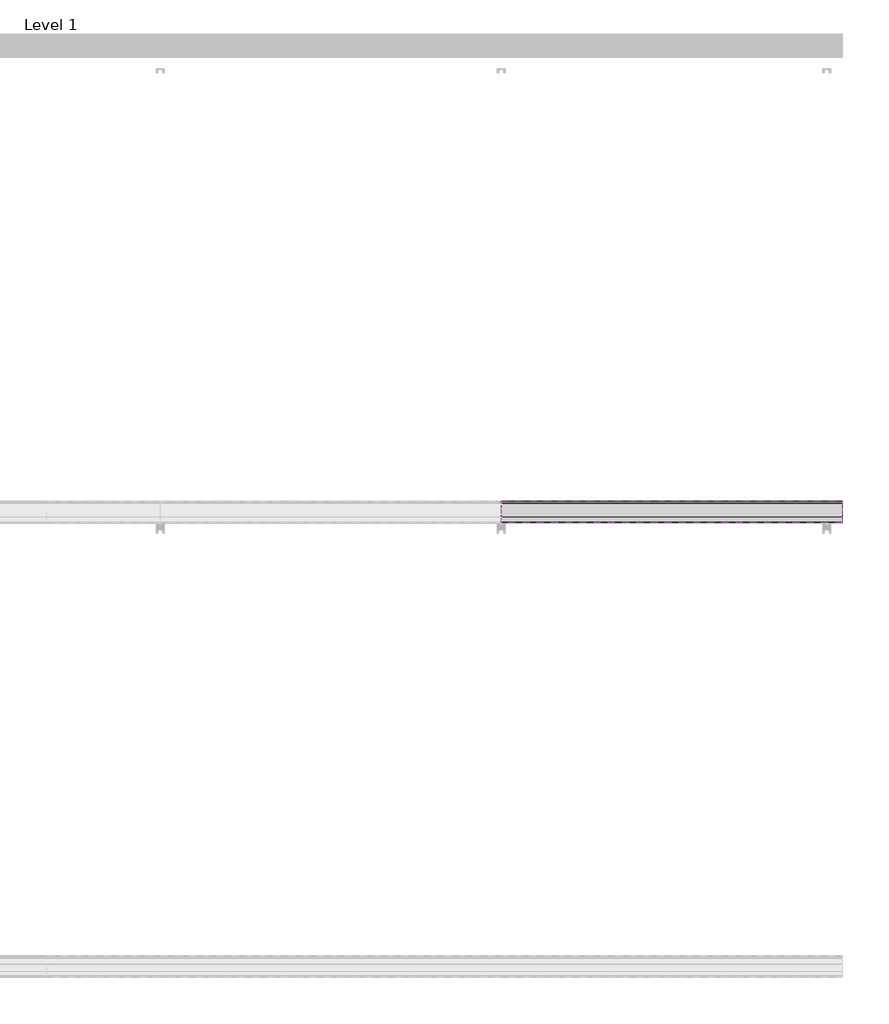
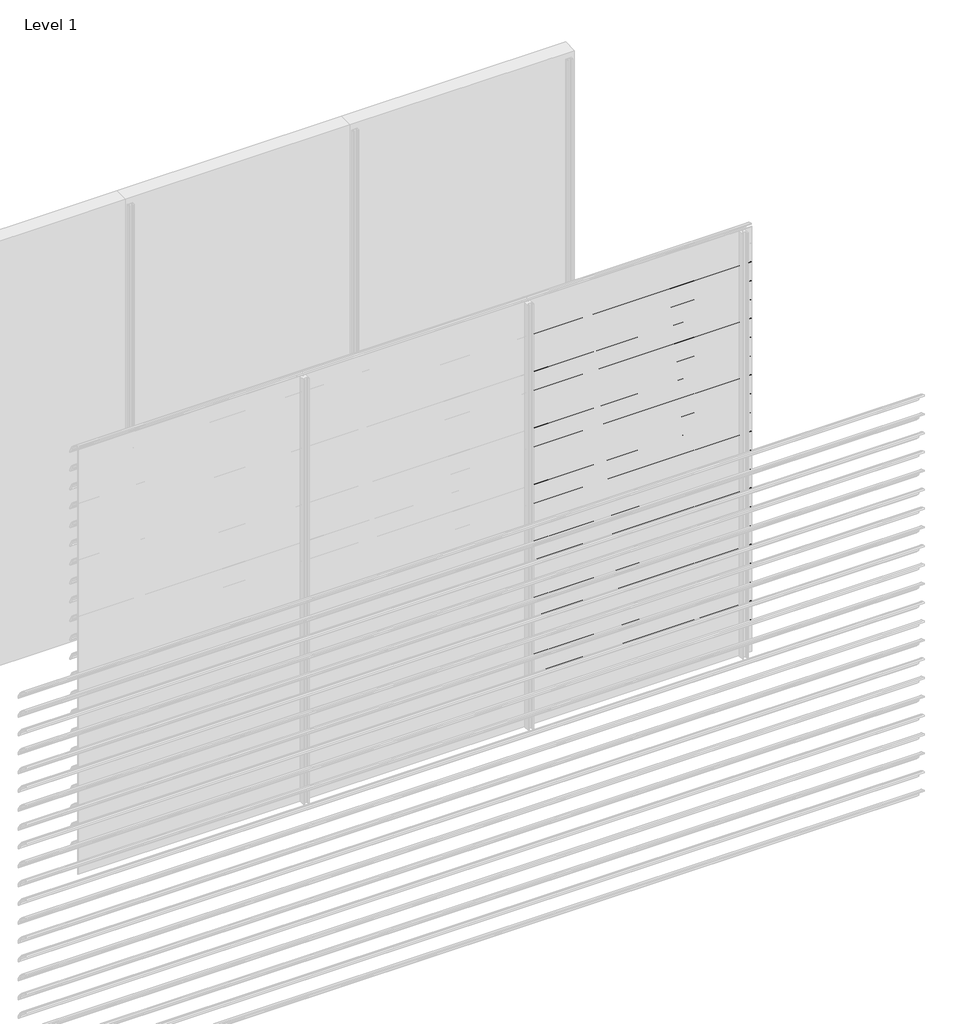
# One storey, part 46 of 57: 20 proxies.
"""IFC4 building model written with IfcOpenShell, lengths in millimetres."""

from ifc_helpers import new_model, si_unit, point, frame, frame_2d, origin, place, context, project, spatial, polyline, circle_curve, trimmed, segment, composite_curve, outline, extrude, element, save

model = new_model("IFC4")

# Units and contexts
model_context = context("Model", 3, world=origin())
ifc_project = project(units=[si_unit("LENGTHUNIT", "METRE", prefix="MILLI")], contexts=[model_context])

# Site, building, storey
site = spatial("IfcSite", under=ifc_project)
building = spatial("IfcBuilding", under=site)
storey = spatial("IfcBuildingStorey", under=building, Name="Level 1", Elevation=0.0)

# Proxies
placement = place(None, origin())
element("IfcBuildingElementProxy", 1, Name="Wall Sweeps", at=placement, inside=storey, context=model_context, shape_type="SweptSolid", body=[
    extrude(outline(composite_curve([segment(trimmed(circle_curve(frame_2d((-11993.7822526, 2750.4913792)), 4.2177474), [point((-11989.6985606, 2751.5462976))], [point((-11993.7822526, 2754.7091266))], False, "CARTESIAN"), True, "CONTINUOUS"), segment(trimmed(circle_curve(frame_2d((-12018.7150834, 2652.2536312)), 105.4456002), [point((-11993.7822526, 2754.7091266))], [point((-11971.7914298, 2746.6832099))], False, "CARTESIAN"), True, "CONTINUOUS"), segment(trimmed(circle_curve(frame_2d((-12061.7199745, 2598.0352476)), 173.7335887), [point((-11971.7914298, 2746.6832099))], [point((-11913.0720121, 2687.9637922))], False, "CARTESIAN"), True, "CONTINUOUS"), segment(trimmed(circle_curve(frame_2d((-12004.9297178, 2636.1860314)), 105.4456002), [point((-11913.0720121, 2687.9637922))], [point((-11903.6249616, 2665.4455765))], False, "CARTESIAN"), True, "CONTINUOUS"), segment(trimmed(circle_curve(frame_2d((-11907.809737, 2664.3307305)), 4.3307305), [point((-11903.6249616, 2665.4455765))], [point((-11909.0769196, 2660.189538))], False, "CARTESIAN"), True, "CONTINUOUS"), segment(polyline([(-11909.0769196, 2660.189538), (-11934.7401984, 2684.9722783)]), True, "CONTINUOUS"), segment(trimmed(circle_curve(frame_2d((-11931.3879574, 2687.2977626)), 4.079877), [point((-11934.7401984, 2684.9722783))], [point((-11930.7310597, 2691.3244091))], False, "CARTESIAN"), True, "CONTINUOUS"), segment(trimmed(circle_curve(frame_2d((-12014.6665585, 2669.2544323)), 86.7885467), [point((-11930.7310597, 2691.3244091))], [point((-11942.3028351, 2717.1683485))], True, "CARTESIAN"), True, "CONTINUOUS"), segment(polyline([(-11942.3028351, 2717.1683485), (-11940.7230099, 2719.9046861)]), True, "CONTINUOUS"), segment(trimmed(circle_curve(frame_2d((-12061.7199745, 2598.0352476)), 171.7335887), [point((-11940.7230099, 2719.9046861))], [point((-11972.7555872, 2744.9289618))], True, "CARTESIAN"), True, "CONTINUOUS"), segment(trimmed(circle_curve(frame_2d((-12018.7150834, 2652.2536312)), 103.4456002), [point((-11972.7555872, 2744.9289618))], [point((-11989.6985606, 2751.5462976))], True, "CARTESIAN"), True, "CONTINUOUS")], self_intersect=False)), frame((4500.0, 0.0, 0.0), z_axis=(1.0, 0.0, 0.0), x_axis=(0.0, 1.0, 0.0)), (0.0, 0.0, 1.0), 1500.0),
])
element("IfcBuildingElementProxy", 2, Name="Wall Sweeps", at=placement, inside=storey, context=model_context, shape_type="SweptSolid", body=[
    extrude(outline(composite_curve([segment(trimmed(circle_curve(frame_2d((-11993.7822526, 2617.4913792)), 4.2177474), [point((-11989.6985606, 2618.5462976))], [point((-11993.7822526, 2621.7091266))], False, "CARTESIAN"), True, "CONTINUOUS"), segment(trimmed(circle_curve(frame_2d((-12018.7150834, 2519.2536312)), 105.4456002), [point((-11993.7822526, 2621.7091266))], [point((-11971.7914298, 2613.6832099))], False, "CARTESIAN"), True, "CONTINUOUS"), segment(trimmed(circle_curve(frame_2d((-12061.7199745, 2465.0352476)), 173.7335887), [point((-11971.7914298, 2613.6832099))], [point((-11913.0720121, 2554.9637922))], False, "CARTESIAN"), True, "CONTINUOUS"), segment(trimmed(circle_curve(frame_2d((-12004.9297178, 2503.1860314)), 105.4456002), [point((-11913.0720121, 2554.9637922))], [point((-11903.6249616, 2532.4455765))], False, "CARTESIAN"), True, "CONTINUOUS"), segment(trimmed(circle_curve(frame_2d((-11907.809737, 2531.3307305)), 4.3307305), [point((-11903.6249616, 2532.4455765))], [point((-11909.0769196, 2527.189538))], False, "CARTESIAN"), True, "CONTINUOUS"), segment(polyline([(-11909.0769196, 2527.189538), (-11934.7401984, 2551.9722783)]), True, "CONTINUOUS"), segment(trimmed(circle_curve(frame_2d((-11931.3879574, 2554.2977626)), 4.079877), [point((-11934.7401984, 2551.9722783))], [point((-11930.7310597, 2558.3244091))], False, "CARTESIAN"), True, "CONTINUOUS"), segment(trimmed(circle_curve(frame_2d((-12014.6665585, 2536.2544323)), 86.7885467), [point((-11930.7310597, 2558.3244091))], [point((-11942.3028351, 2584.1683485))], True, "CARTESIAN"), True, "CONTINUOUS"), segment(polyline([(-11942.3028351, 2584.1683485), (-11940.7230099, 2586.9046861)]), True, "CONTINUOUS"), segment(trimmed(circle_curve(frame_2d((-12061.7199745, 2465.0352476)), 171.7335887), [point((-11940.7230099, 2586.9046861))], [point((-11972.7555872, 2611.9289618))], True, "CARTESIAN"), True, "CONTINUOUS"), segment(trimmed(circle_curve(frame_2d((-12018.7150834, 2519.2536312)), 103.4456002), [point((-11972.7555872, 2611.9289618))], [point((-11989.6985606, 2618.5462976))], True, "CARTESIAN"), True, "CONTINUOUS")], self_intersect=False)), frame((4500.0, 0.0, 0.0), z_axis=(1.0, 0.0, 0.0), x_axis=(0.0, 1.0, 0.0)), (0.0, 0.0, 1.0), 1500.0),
])
element("IfcBuildingElementProxy", 3, Name="Wall Sweeps", at=placement, inside=storey, context=model_context, shape_type="SweptSolid", body=[
    extrude(outline(composite_curve([segment(trimmed(circle_curve(frame_2d((-11993.7822526, 2484.4913792)), 4.2177474), [point((-11989.6985606, 2485.5462976))], [point((-11993.7822526, 2488.7091266))], False, "CARTESIAN"), True, "CONTINUOUS"), segment(trimmed(circle_curve(frame_2d((-12018.7150834, 2386.2536312)), 105.4456002), [point((-11993.7822526, 2488.7091266))], [point((-11971.7914298, 2480.6832099))], False, "CARTESIAN"), True, "CONTINUOUS"), segment(trimmed(circle_curve(frame_2d((-12061.7199745, 2332.0352476)), 173.7335887), [point((-11971.7914298, 2480.6832099))], [point((-11913.0720121, 2421.9637922))], False, "CARTESIAN"), True, "CONTINUOUS"), segment(trimmed(circle_curve(frame_2d((-12004.9297178, 2370.1860314)), 105.4456002), [point((-11913.0720121, 2421.9637922))], [point((-11903.6249616, 2399.4455765))], False, "CARTESIAN"), True, "CONTINUOUS"), segment(trimmed(circle_curve(frame_2d((-11907.809737, 2398.3307305)), 4.3307305), [point((-11903.6249616, 2399.4455765))], [point((-11909.0769196, 2394.189538))], False, "CARTESIAN"), True, "CONTINUOUS"), segment(polyline([(-11909.0769196, 2394.189538), (-11934.7401984, 2418.9722783)]), True, "CONTINUOUS"), segment(trimmed(circle_curve(frame_2d((-11931.3879574, 2421.2977626)), 4.079877), [point((-11934.7401984, 2418.9722783))], [point((-11930.7310597, 2425.3244091))], False, "CARTESIAN"), True, "CONTINUOUS"), segment(trimmed(circle_curve(frame_2d((-12014.6665585, 2403.2544323)), 86.7885467), [point((-11930.7310597, 2425.3244091))], [point((-11942.3028351, 2451.1683485))], True, "CARTESIAN"), True, "CONTINUOUS"), segment(polyline([(-11942.3028351, 2451.1683485), (-11940.7230099, 2453.9046861)]), True, "CONTINUOUS"), segment(trimmed(circle_curve(frame_2d((-12061.7199745, 2332.0352476)), 171.7335887), [point((-11940.7230099, 2453.9046861))], [point((-11972.7555872, 2478.9289618))], True, "CARTESIAN"), True, "CONTINUOUS"), segment(trimmed(circle_curve(frame_2d((-12018.7150834, 2386.2536312)), 103.4456002), [point((-11972.7555872, 2478.9289618))], [point((-11989.6985606, 2485.5462976))], True, "CARTESIAN"), True, "CONTINUOUS")], self_intersect=False)), frame((4500.0, 0.0, 0.0), z_axis=(1.0, 0.0, 0.0), x_axis=(0.0, 1.0, 0.0)), (0.0, 0.0, 1.0), 1500.0),
])
element("IfcBuildingElementProxy", 4, Name="Wall Sweeps", at=placement, inside=storey, context=model_context, shape_type="SweptSolid", body=[
    extrude(outline(composite_curve([segment(trimmed(circle_curve(frame_2d((-11993.7822526, 2351.4913792)), 4.2177474), [point((-11989.6985606, 2352.5462976))], [point((-11993.7822526, 2355.7091266))], False, "CARTESIAN"), True, "CONTINUOUS"), segment(trimmed(circle_curve(frame_2d((-12018.7150834, 2253.2536312)), 105.4456002), [point((-11993.7822526, 2355.7091266))], [point((-11971.7914298, 2347.6832099))], False, "CARTESIAN"), True, "CONTINUOUS"), segment(trimmed(circle_curve(frame_2d((-12061.7199745, 2199.0352476)), 173.7335887), [point((-11971.7914298, 2347.6832099))], [point((-11913.0720121, 2288.9637922))], False, "CARTESIAN"), True, "CONTINUOUS"), segment(trimmed(circle_curve(frame_2d((-12004.9297178, 2237.1860314)), 105.4456002), [point((-11913.0720121, 2288.9637922))], [point((-11903.6249616, 2266.4455765))], False, "CARTESIAN"), True, "CONTINUOUS"), segment(trimmed(circle_curve(frame_2d((-11907.809737, 2265.3307305)), 4.3307305), [point((-11903.6249616, 2266.4455765))], [point((-11909.0769196, 2261.189538))], False, "CARTESIAN"), True, "CONTINUOUS"), segment(polyline([(-11909.0769196, 2261.189538), (-11934.7401984, 2285.9722783)]), True, "CONTINUOUS"), segment(trimmed(circle_curve(frame_2d((-11931.3879574, 2288.2977626)), 4.079877), [point((-11934.7401984, 2285.9722783))], [point((-11930.7310597, 2292.3244091))], False, "CARTESIAN"), True, "CONTINUOUS"), segment(trimmed(circle_curve(frame_2d((-12014.6665585, 2270.2544323)), 86.7885467), [point((-11930.7310597, 2292.3244091))], [point((-11942.3028351, 2318.1683485))], True, "CARTESIAN"), True, "CONTINUOUS"), segment(polyline([(-11942.3028351, 2318.1683485), (-11940.7230099, 2320.9046861)]), True, "CONTINUOUS"), segment(trimmed(circle_curve(frame_2d((-12061.7199745, 2199.0352476)), 171.7335887), [point((-11940.7230099, 2320.9046861))], [point((-11972.7555872, 2345.9289618))], True, "CARTESIAN"), True, "CONTINUOUS"), segment(trimmed(circle_curve(frame_2d((-12018.7150834, 2253.2536312)), 103.4456002), [point((-11972.7555872, 2345.9289618))], [point((-11989.6985606, 2352.5462976))], True, "CARTESIAN"), True, "CONTINUOUS")], self_intersect=False)), frame((4500.0, 0.0, 0.0), z_axis=(1.0, 0.0, 0.0), x_axis=(0.0, 1.0, 0.0)), (0.0, 0.0, 1.0), 1500.0),
])
element("IfcBuildingElementProxy", 5, Name="Wall Sweeps", at=placement, inside=storey, context=model_context, shape_type="SweptSolid", body=[
    extrude(outline(composite_curve([segment(trimmed(circle_curve(frame_2d((-11993.7822526, 2218.4913792)), 4.2177474), [point((-11989.6985606, 2219.5462976))], [point((-11993.7822526, 2222.7091266))], False, "CARTESIAN"), True, "CONTINUOUS"), segment(trimmed(circle_curve(frame_2d((-12018.7150834, 2120.2536312)), 105.4456002), [point((-11993.7822526, 2222.7091266))], [point((-11971.7914298, 2214.6832099))], False, "CARTESIAN"), True, "CONTINUOUS"), segment(trimmed(circle_curve(frame_2d((-12061.7199745, 2066.0352476)), 173.7335887), [point((-11971.7914298, 2214.6832099))], [point((-11913.0720121, 2155.9637922))], False, "CARTESIAN"), True, "CONTINUOUS"), segment(trimmed(circle_curve(frame_2d((-12004.9297178, 2104.1860314)), 105.4456002), [point((-11913.0720121, 2155.9637922))], [point((-11903.6249616, 2133.4455765))], False, "CARTESIAN"), True, "CONTINUOUS"), segment(trimmed(circle_curve(frame_2d((-11907.809737, 2132.3307305)), 4.3307305), [point((-11903.6249616, 2133.4455765))], [point((-11909.0769196, 2128.189538))], False, "CARTESIAN"), True, "CONTINUOUS"), segment(polyline([(-11909.0769196, 2128.189538), (-11934.7401984, 2152.9722783)]), True, "CONTINUOUS"), segment(trimmed(circle_curve(frame_2d((-11931.3879574, 2155.2977626)), 4.079877), [point((-11934.7401984, 2152.9722783))], [point((-11930.7310597, 2159.3244091))], False, "CARTESIAN"), True, "CONTINUOUS"), segment(trimmed(circle_curve(frame_2d((-12014.6665585, 2137.2544323)), 86.7885467), [point((-11930.7310597, 2159.3244091))], [point((-11942.3028351, 2185.1683485))], True, "CARTESIAN"), True, "CONTINUOUS"), segment(polyline([(-11942.3028351, 2185.1683485), (-11940.7230099, 2187.9046861)]), True, "CONTINUOUS"), segment(trimmed(circle_curve(frame_2d((-12061.7199745, 2066.0352476)), 171.7335887), [point((-11940.7230099, 2187.9046861))], [point((-11972.7555872, 2212.9289618))], True, "CARTESIAN"), True, "CONTINUOUS"), segment(trimmed(circle_curve(frame_2d((-12018.7150834, 2120.2536312)), 103.4456002), [point((-11972.7555872, 2212.9289618))], [point((-11989.6985606, 2219.5462976))], True, "CARTESIAN"), True, "CONTINUOUS")], self_intersect=False)), frame((4500.0, 0.0, 0.0), z_axis=(1.0, 0.0, 0.0), x_axis=(0.0, 1.0, 0.0)), (0.0, 0.0, 1.0), 1500.0),
])
element("IfcBuildingElementProxy", 6, Name="Wall Sweeps", at=placement, inside=storey, context=model_context, shape_type="SweptSolid", body=[
    extrude(outline(composite_curve([segment(trimmed(circle_curve(frame_2d((-11993.7822526, 2085.4913792)), 4.2177474), [point((-11989.6985606, 2086.5462976))], [point((-11993.7822526, 2089.7091266))], False, "CARTESIAN"), True, "CONTINUOUS"), segment(trimmed(circle_curve(frame_2d((-12018.7150834, 1987.2536312)), 105.4456002), [point((-11993.7822526, 2089.7091266))], [point((-11971.7914298, 2081.6832099))], False, "CARTESIAN"), True, "CONTINUOUS"), segment(trimmed(circle_curve(frame_2d((-12061.7199745, 1933.0352476)), 173.7335887), [point((-11971.7914298, 2081.6832099))], [point((-11913.0720121, 2022.9637922))], False, "CARTESIAN"), True, "CONTINUOUS"), segment(trimmed(circle_curve(frame_2d((-12004.9297178, 1971.1860314)), 105.4456002), [point((-11913.0720121, 2022.9637922))], [point((-11903.6249616, 2000.4455765))], False, "CARTESIAN"), True, "CONTINUOUS"), segment(trimmed(circle_curve(frame_2d((-11907.809737, 1999.3307305)), 4.3307305), [point((-11903.6249616, 2000.4455765))], [point((-11909.0769196, 1995.189538))], False, "CARTESIAN"), True, "CONTINUOUS"), segment(polyline([(-11909.0769196, 1995.189538), (-11934.7401984, 2019.9722783)]), True, "CONTINUOUS"), segment(trimmed(circle_curve(frame_2d((-11931.3879574, 2022.2977626)), 4.079877), [point((-11934.7401984, 2019.9722783))], [point((-11930.7310597, 2026.3244091))], False, "CARTESIAN"), True, "CONTINUOUS"), segment(trimmed(circle_curve(frame_2d((-12014.6665585, 2004.2544323)), 86.7885467), [point((-11930.7310597, 2026.3244091))], [point((-11942.3028351, 2052.1683485))], True, "CARTESIAN"), True, "CONTINUOUS"), segment(polyline([(-11942.3028351, 2052.1683485), (-11940.7230099, 2054.9046861)]), True, "CONTINUOUS"), segment(trimmed(circle_curve(frame_2d((-12061.7199745, 1933.0352476)), 171.7335887), [point((-11940.7230099, 2054.9046861))], [point((-11972.7555872, 2079.9289618))], True, "CARTESIAN"), True, "CONTINUOUS"), segment(trimmed(circle_curve(frame_2d((-12018.7150834, 1987.2536312)), 103.4456002), [point((-11972.7555872, 2079.9289618))], [point((-11989.6985606, 2086.5462976))], True, "CARTESIAN"), True, "CONTINUOUS")], self_intersect=False)), frame((4500.0, 0.0, 0.0), z_axis=(1.0, 0.0, 0.0), x_axis=(0.0, 1.0, 0.0)), (0.0, 0.0, 1.0), 1500.0),
])
element("IfcBuildingElementProxy", 7, Name="Wall Sweeps", at=placement, inside=storey, context=model_context, shape_type="SweptSolid", body=[
    extrude(outline(composite_curve([segment(trimmed(circle_curve(frame_2d((-11993.7822526, 1952.4913792)), 4.2177474), [point((-11989.6985606, 1953.5462976))], [point((-11993.7822526, 1956.7091266))], False, "CARTESIAN"), True, "CONTINUOUS"), segment(trimmed(circle_curve(frame_2d((-12018.7150834, 1854.2536312)), 105.4456002), [point((-11993.7822526, 1956.7091266))], [point((-11971.7914298, 1948.6832099))], False, "CARTESIAN"), True, "CONTINUOUS"), segment(trimmed(circle_curve(frame_2d((-12061.7199745, 1800.0352476)), 173.7335887), [point((-11971.7914298, 1948.6832099))], [point((-11913.0720121, 1889.9637922))], False, "CARTESIAN"), True, "CONTINUOUS"), segment(trimmed(circle_curve(frame_2d((-12004.9297178, 1838.1860314)), 105.4456002), [point((-11913.0720121, 1889.9637922))], [point((-11903.6249616, 1867.4455765))], False, "CARTESIAN"), True, "CONTINUOUS"), segment(trimmed(circle_curve(frame_2d((-11907.809737, 1866.3307305)), 4.3307305), [point((-11903.6249616, 1867.4455765))], [point((-11909.0769196, 1862.189538))], False, "CARTESIAN"), True, "CONTINUOUS"), segment(polyline([(-11909.0769196, 1862.189538), (-11934.7401984, 1886.9722783)]), True, "CONTINUOUS"), segment(trimmed(circle_curve(frame_2d((-11931.3879574, 1889.2977626)), 4.079877), [point((-11934.7401984, 1886.9722783))], [point((-11930.7310597, 1893.3244091))], False, "CARTESIAN"), True, "CONTINUOUS"), segment(trimmed(circle_curve(frame_2d((-12014.6665585, 1871.2544323)), 86.7885467), [point((-11930.7310597, 1893.3244091))], [point((-11942.3028351, 1919.1683485))], True, "CARTESIAN"), True, "CONTINUOUS"), segment(polyline([(-11942.3028351, 1919.1683485), (-11940.7230099, 1921.9046861)]), True, "CONTINUOUS"), segment(trimmed(circle_curve(frame_2d((-12061.7199745, 1800.0352476)), 171.7335887), [point((-11940.7230099, 1921.9046861))], [point((-11972.7555872, 1946.9289618))], True, "CARTESIAN"), True, "CONTINUOUS"), segment(trimmed(circle_curve(frame_2d((-12018.7150834, 1854.2536312)), 103.4456002), [point((-11972.7555872, 1946.9289618))], [point((-11989.6985606, 1953.5462976))], True, "CARTESIAN"), True, "CONTINUOUS")], self_intersect=False)), frame((4500.0, 0.0, 0.0), z_axis=(1.0, 0.0, 0.0), x_axis=(0.0, 1.0, 0.0)), (0.0, 0.0, 1.0), 1500.0),
])
element("IfcBuildingElementProxy", 8, Name="Wall Sweeps", at=placement, inside=storey, context=model_context, shape_type="SweptSolid", body=[
    extrude(outline(composite_curve([segment(trimmed(circle_curve(frame_2d((-11993.7822526, 1819.4913792)), 4.2177474), [point((-11989.6985606, 1820.5462976))], [point((-11993.7822526, 1823.7091266))], False, "CARTESIAN"), True, "CONTINUOUS"), segment(trimmed(circle_curve(frame_2d((-12018.7150834, 1721.2536312)), 105.4456002), [point((-11993.7822526, 1823.7091266))], [point((-11971.7914298, 1815.6832099))], False, "CARTESIAN"), True, "CONTINUOUS"), segment(trimmed(circle_curve(frame_2d((-12061.7199745, 1667.0352476)), 173.7335887), [point((-11971.7914298, 1815.6832099))], [point((-11913.0720121, 1756.9637922))], False, "CARTESIAN"), True, "CONTINUOUS"), segment(trimmed(circle_curve(frame_2d((-12004.9297178, 1705.1860314)), 105.4456002), [point((-11913.0720121, 1756.9637922))], [point((-11903.6249616, 1734.4455765))], False, "CARTESIAN"), True, "CONTINUOUS"), segment(trimmed(circle_curve(frame_2d((-11907.809737, 1733.3307305)), 4.3307305), [point((-11903.6249616, 1734.4455765))], [point((-11909.0769196, 1729.189538))], False, "CARTESIAN"), True, "CONTINUOUS"), segment(polyline([(-11909.0769196, 1729.189538), (-11934.7401984, 1753.9722783)]), True, "CONTINUOUS"), segment(trimmed(circle_curve(frame_2d((-11931.3879574, 1756.2977626)), 4.079877), [point((-11934.7401984, 1753.9722783))], [point((-11930.7310597, 1760.3244091))], False, "CARTESIAN"), True, "CONTINUOUS"), segment(trimmed(circle_curve(frame_2d((-12014.6665585, 1738.2544323)), 86.7885467), [point((-11930.7310597, 1760.3244091))], [point((-11942.3028351, 1786.1683485))], True, "CARTESIAN"), True, "CONTINUOUS"), segment(polyline([(-11942.3028351, 1786.1683485), (-11940.7230099, 1788.9046861)]), True, "CONTINUOUS"), segment(trimmed(circle_curve(frame_2d((-12061.7199745, 1667.0352476)), 171.7335887), [point((-11940.7230099, 1788.9046861))], [point((-11972.7555872, 1813.9289618))], True, "CARTESIAN"), True, "CONTINUOUS"), segment(trimmed(circle_curve(frame_2d((-12018.7150834, 1721.2536312)), 103.4456002), [point((-11972.7555872, 1813.9289618))], [point((-11989.6985606, 1820.5462976))], True, "CARTESIAN"), True, "CONTINUOUS")], self_intersect=False)), frame((4500.0, 0.0, 0.0), z_axis=(1.0, 0.0, 0.0), x_axis=(0.0, 1.0, 0.0)), (0.0, 0.0, 1.0), 1500.0),
])
element("IfcBuildingElementProxy", 9, Name="Wall Sweeps", at=placement, inside=storey, context=model_context, shape_type="SweptSolid", body=[
    extrude(outline(composite_curve([segment(trimmed(circle_curve(frame_2d((-11993.7822526, 1686.4913792)), 4.2177474), [point((-11989.6985606, 1687.5462976))], [point((-11993.7822526, 1690.7091266))], False, "CARTESIAN"), True, "CONTINUOUS"), segment(trimmed(circle_curve(frame_2d((-12018.7150834, 1588.2536312)), 105.4456002), [point((-11993.7822526, 1690.7091266))], [point((-11971.7914298, 1682.6832099))], False, "CARTESIAN"), True, "CONTINUOUS"), segment(trimmed(circle_curve(frame_2d((-12061.7199745, 1534.0352476)), 173.7335887), [point((-11971.7914298, 1682.6832099))], [point((-11913.0720121, 1623.9637922))], False, "CARTESIAN"), True, "CONTINUOUS"), segment(trimmed(circle_curve(frame_2d((-12004.9297178, 1572.1860314)), 105.4456002), [point((-11913.0720121, 1623.9637922))], [point((-11903.6249616, 1601.4455765))], False, "CARTESIAN"), True, "CONTINUOUS"), segment(trimmed(circle_curve(frame_2d((-11907.809737, 1600.3307305)), 4.3307305), [point((-11903.6249616, 1601.4455765))], [point((-11909.0769196, 1596.189538))], False, "CARTESIAN"), True, "CONTINUOUS"), segment(polyline([(-11909.0769196, 1596.189538), (-11934.7401984, 1620.9722783)]), True, "CONTINUOUS"), segment(trimmed(circle_curve(frame_2d((-11931.3879574, 1623.2977626)), 4.079877), [point((-11934.7401984, 1620.9722783))], [point((-11930.7310597, 1627.3244091))], False, "CARTESIAN"), True, "CONTINUOUS"), segment(trimmed(circle_curve(frame_2d((-12014.6665585, 1605.2544323)), 86.7885467), [point((-11930.7310597, 1627.3244091))], [point((-11942.3028351, 1653.1683485))], True, "CARTESIAN"), True, "CONTINUOUS"), segment(polyline([(-11942.3028351, 1653.1683485), (-11940.7230099, 1655.9046861)]), True, "CONTINUOUS"), segment(trimmed(circle_curve(frame_2d((-12061.7199745, 1534.0352476)), 171.7335887), [point((-11940.7230099, 1655.9046861))], [point((-11972.7555872, 1680.9289618))], True, "CARTESIAN"), True, "CONTINUOUS"), segment(trimmed(circle_curve(frame_2d((-12018.7150834, 1588.2536312)), 103.4456002), [point((-11972.7555872, 1680.9289618))], [point((-11989.6985606, 1687.5462976))], True, "CARTESIAN"), True, "CONTINUOUS")], self_intersect=False)), frame((4500.0, 0.0, 0.0), z_axis=(1.0, 0.0, 0.0), x_axis=(0.0, 1.0, 0.0)), (0.0, 0.0, 1.0), 1500.0),
])
element("IfcBuildingElementProxy", 10, Name="Wall Sweeps", at=placement, inside=storey, context=model_context, shape_type="SweptSolid", body=[
    extrude(outline(composite_curve([segment(trimmed(circle_curve(frame_2d((-11993.7822526, 1553.4913792)), 4.2177474), [point((-11989.6985606, 1554.5462976))], [point((-11993.7822526, 1557.7091266))], False, "CARTESIAN"), True, "CONTINUOUS"), segment(trimmed(circle_curve(frame_2d((-12018.7150834, 1455.2536312)), 105.4456002), [point((-11993.7822526, 1557.7091266))], [point((-11971.7914298, 1549.6832099))], False, "CARTESIAN"), True, "CONTINUOUS"), segment(trimmed(circle_curve(frame_2d((-12061.7199745, 1401.0352476)), 173.7335887), [point((-11971.7914298, 1549.6832099))], [point((-11913.0720121, 1490.9637922))], False, "CARTESIAN"), True, "CONTINUOUS"), segment(trimmed(circle_curve(frame_2d((-12004.9297178, 1439.1860314)), 105.4456002), [point((-11913.0720121, 1490.9637922))], [point((-11903.6249616, 1468.4455765))], False, "CARTESIAN"), True, "CONTINUOUS"), segment(trimmed(circle_curve(frame_2d((-11907.809737, 1467.3307305)), 4.3307305), [point((-11903.6249616, 1468.4455765))], [point((-11909.0769196, 1463.189538))], False, "CARTESIAN"), True, "CONTINUOUS"), segment(polyline([(-11909.0769196, 1463.189538), (-11934.7401984, 1487.9722783)]), True, "CONTINUOUS"), segment(trimmed(circle_curve(frame_2d((-11931.3879574, 1490.2977626)), 4.079877), [point((-11934.7401984, 1487.9722783))], [point((-11930.7310597, 1494.3244091))], False, "CARTESIAN"), True, "CONTINUOUS"), segment(trimmed(circle_curve(frame_2d((-12014.6665585, 1472.2544323)), 86.7885467), [point((-11930.7310597, 1494.3244091))], [point((-11942.3028351, 1520.1683485))], True, "CARTESIAN"), True, "CONTINUOUS"), segment(polyline([(-11942.3028351, 1520.1683485), (-11940.7230099, 1522.9046861)]), True, "CONTINUOUS"), segment(trimmed(circle_curve(frame_2d((-12061.7199745, 1401.0352476)), 171.7335887), [point((-11940.7230099, 1522.9046861))], [point((-11972.7555872, 1547.9289618))], True, "CARTESIAN"), True, "CONTINUOUS"), segment(trimmed(circle_curve(frame_2d((-12018.7150834, 1455.2536312)), 103.4456002), [point((-11972.7555872, 1547.9289618))], [point((-11989.6985606, 1554.5462976))], True, "CARTESIAN"), True, "CONTINUOUS")], self_intersect=False)), frame((4500.0, 0.0, 0.0), z_axis=(1.0, 0.0, 0.0), x_axis=(0.0, 1.0, 0.0)), (0.0, 0.0, 1.0), 1500.0),
])
element("IfcBuildingElementProxy", 11, Name="Wall Sweeps", at=placement, inside=storey, context=model_context, shape_type="SweptSolid", body=[
    extrude(outline(composite_curve([segment(trimmed(circle_curve(frame_2d((-11993.7822526, 1420.4913792)), 4.2177474), [point((-11989.6985606, 1421.5462976))], [point((-11993.7822526, 1424.7091266))], False, "CARTESIAN"), True, "CONTINUOUS"), segment(trimmed(circle_curve(frame_2d((-12018.7150834, 1322.2536312)), 105.4456002), [point((-11993.7822526, 1424.7091266))], [point((-11971.7914298, 1416.6832099))], False, "CARTESIAN"), True, "CONTINUOUS"), segment(trimmed(circle_curve(frame_2d((-12061.7199745, 1268.0352476)), 173.7335887), [point((-11971.7914298, 1416.6832099))], [point((-11913.0720121, 1357.9637922))], False, "CARTESIAN"), True, "CONTINUOUS"), segment(trimmed(circle_curve(frame_2d((-12004.9297178, 1306.1860314)), 105.4456002), [point((-11913.0720121, 1357.9637922))], [point((-11903.6249616, 1335.4455765))], False, "CARTESIAN"), True, "CONTINUOUS"), segment(trimmed(circle_curve(frame_2d((-11907.809737, 1334.3307305)), 4.3307305), [point((-11903.6249616, 1335.4455765))], [point((-11909.0769196, 1330.189538))], False, "CARTESIAN"), True, "CONTINUOUS"), segment(polyline([(-11909.0769196, 1330.189538), (-11934.7401984, 1354.9722783)]), True, "CONTINUOUS"), segment(trimmed(circle_curve(frame_2d((-11931.3879574, 1357.2977626)), 4.079877), [point((-11934.7401984, 1354.9722783))], [point((-11930.7310597, 1361.3244091))], False, "CARTESIAN"), True, "CONTINUOUS"), segment(trimmed(circle_curve(frame_2d((-12014.6665585, 1339.2544323)), 86.7885467), [point((-11930.7310597, 1361.3244091))], [point((-11942.3028351, 1387.1683485))], True, "CARTESIAN"), True, "CONTINUOUS"), segment(polyline([(-11942.3028351, 1387.1683485), (-11940.7230099, 1389.9046861)]), True, "CONTINUOUS"), segment(trimmed(circle_curve(frame_2d((-12061.7199745, 1268.0352476)), 171.7335887), [point((-11940.7230099, 1389.9046861))], [point((-11972.7555872, 1414.9289618))], True, "CARTESIAN"), True, "CONTINUOUS"), segment(trimmed(circle_curve(frame_2d((-12018.7150834, 1322.2536312)), 103.4456002), [point((-11972.7555872, 1414.9289618))], [point((-11989.6985606, 1421.5462976))], True, "CARTESIAN"), True, "CONTINUOUS")], self_intersect=False)), frame((4500.0, 0.0, 0.0), z_axis=(1.0, 0.0, 0.0), x_axis=(0.0, 1.0, 0.0)), (0.0, 0.0, 1.0), 1500.0),
])
element("IfcBuildingElementProxy", 12, Name="Wall Sweeps", at=placement, inside=storey, context=model_context, shape_type="SweptSolid", body=[
    extrude(outline(composite_curve([segment(trimmed(circle_curve(frame_2d((-11993.7822526, 1287.4913792)), 4.2177474), [point((-11989.6985606, 1288.5462976))], [point((-11993.7822526, 1291.7091266))], False, "CARTESIAN"), True, "CONTINUOUS"), segment(trimmed(circle_curve(frame_2d((-12018.7150834, 1189.2536312)), 105.4456002), [point((-11993.7822526, 1291.7091266))], [point((-11971.7914298, 1283.6832099))], False, "CARTESIAN"), True, "CONTINUOUS"), segment(trimmed(circle_curve(frame_2d((-12061.7199745, 1135.0352476)), 173.7335887), [point((-11971.7914298, 1283.6832099))], [point((-11913.0720121, 1224.9637922))], False, "CARTESIAN"), True, "CONTINUOUS"), segment(trimmed(circle_curve(frame_2d((-12004.9297178, 1173.1860314)), 105.4456002), [point((-11913.0720121, 1224.9637922))], [point((-11903.6249616, 1202.4455765))], False, "CARTESIAN"), True, "CONTINUOUS"), segment(trimmed(circle_curve(frame_2d((-11907.809737, 1201.3307305)), 4.3307305), [point((-11903.6249616, 1202.4455765))], [point((-11909.0769196, 1197.189538))], False, "CARTESIAN"), True, "CONTINUOUS"), segment(polyline([(-11909.0769196, 1197.189538), (-11934.7401984, 1221.9722783)]), True, "CONTINUOUS"), segment(trimmed(circle_curve(frame_2d((-11931.3879574, 1224.2977626)), 4.079877), [point((-11934.7401984, 1221.9722783))], [point((-11930.7310597, 1228.3244091))], False, "CARTESIAN"), True, "CONTINUOUS"), segment(trimmed(circle_curve(frame_2d((-12014.6665585, 1206.2544323)), 86.7885467), [point((-11930.7310597, 1228.3244091))], [point((-11942.3028351, 1254.1683485))], True, "CARTESIAN"), True, "CONTINUOUS"), segment(polyline([(-11942.3028351, 1254.1683485), (-11940.7230099, 1256.9046861)]), True, "CONTINUOUS"), segment(trimmed(circle_curve(frame_2d((-12061.7199745, 1135.0352476)), 171.7335887), [point((-11940.7230099, 1256.9046861))], [point((-11972.7555872, 1281.9289618))], True, "CARTESIAN"), True, "CONTINUOUS"), segment(trimmed(circle_curve(frame_2d((-12018.7150834, 1189.2536312)), 103.4456002), [point((-11972.7555872, 1281.9289618))], [point((-11989.6985606, 1288.5462976))], True, "CARTESIAN"), True, "CONTINUOUS")], self_intersect=False)), frame((4500.0, 0.0, 0.0), z_axis=(1.0, 0.0, 0.0), x_axis=(0.0, 1.0, 0.0)), (0.0, 0.0, 1.0), 1500.0),
])
element("IfcBuildingElementProxy", 13, Name="Wall Sweeps", at=placement, inside=storey, context=model_context, shape_type="SweptSolid", body=[
    extrude(outline(composite_curve([segment(trimmed(circle_curve(frame_2d((-11993.7822526, 1154.4913792)), 4.2177474), [point((-11989.6985606, 1155.5462976))], [point((-11993.7822526, 1158.7091266))], False, "CARTESIAN"), True, "CONTINUOUS"), segment(trimmed(circle_curve(frame_2d((-12018.7150834, 1056.2536312)), 105.4456002), [point((-11993.7822526, 1158.7091266))], [point((-11971.7914298, 1150.6832099))], False, "CARTESIAN"), True, "CONTINUOUS"), segment(trimmed(circle_curve(frame_2d((-12061.7199745, 1002.0352476)), 173.7335887), [point((-11971.7914298, 1150.6832099))], [point((-11913.0720121, 1091.9637922))], False, "CARTESIAN"), True, "CONTINUOUS"), segment(trimmed(circle_curve(frame_2d((-12004.9297178, 1040.1860314)), 105.4456002), [point((-11913.0720121, 1091.9637922))], [point((-11903.6249616, 1069.4455765))], False, "CARTESIAN"), True, "CONTINUOUS"), segment(trimmed(circle_curve(frame_2d((-11907.809737, 1068.3307305)), 4.3307305), [point((-11903.6249616, 1069.4455765))], [point((-11909.0769196, 1064.189538))], False, "CARTESIAN"), True, "CONTINUOUS"), segment(polyline([(-11909.0769196, 1064.189538), (-11934.7401984, 1088.9722783)]), True, "CONTINUOUS"), segment(trimmed(circle_curve(frame_2d((-11931.3879574, 1091.2977626)), 4.079877), [point((-11934.7401984, 1088.9722783))], [point((-11930.7310597, 1095.3244091))], False, "CARTESIAN"), True, "CONTINUOUS"), segment(trimmed(circle_curve(frame_2d((-12014.6665585, 1073.2544323)), 86.7885467), [point((-11930.7310597, 1095.3244091))], [point((-11942.3028351, 1121.1683485))], True, "CARTESIAN"), True, "CONTINUOUS"), segment(polyline([(-11942.3028351, 1121.1683485), (-11940.7230099, 1123.9046861)]), True, "CONTINUOUS"), segment(trimmed(circle_curve(frame_2d((-12061.7199745, 1002.0352476)), 171.7335887), [point((-11940.7230099, 1123.9046861))], [point((-11972.7555872, 1148.9289618))], True, "CARTESIAN"), True, "CONTINUOUS"), segment(trimmed(circle_curve(frame_2d((-12018.7150834, 1056.2536312)), 103.4456002), [point((-11972.7555872, 1148.9289618))], [point((-11989.6985606, 1155.5462976))], True, "CARTESIAN"), True, "CONTINUOUS")], self_intersect=False)), frame((4500.0, 0.0, 0.0), z_axis=(1.0, 0.0, 0.0), x_axis=(0.0, 1.0, 0.0)), (0.0, 0.0, 1.0), 1500.0),
])
element("IfcBuildingElementProxy", 14, Name="Wall Sweeps", at=placement, inside=storey, context=model_context, shape_type="SweptSolid", body=[
    extrude(outline(composite_curve([segment(trimmed(circle_curve(frame_2d((-11993.7822526, 1021.4913792)), 4.2177474), [point((-11989.6985606, 1022.5462976))], [point((-11993.7822526, 1025.7091266))], False, "CARTESIAN"), True, "CONTINUOUS"), segment(trimmed(circle_curve(frame_2d((-12018.7150834, 923.2536312)), 105.4456002), [point((-11993.7822526, 1025.7091266))], [point((-11971.7914298, 1017.6832099))], False, "CARTESIAN"), True, "CONTINUOUS"), segment(trimmed(circle_curve(frame_2d((-12061.7199745, 869.0352476)), 173.7335887), [point((-11971.7914298, 1017.6832099))], [point((-11913.0720121, 958.9637922))], False, "CARTESIAN"), True, "CONTINUOUS"), segment(trimmed(circle_curve(frame_2d((-12004.9297178, 907.1860314)), 105.4456002), [point((-11913.0720121, 958.9637922))], [point((-11903.6249616, 936.4455765))], False, "CARTESIAN"), True, "CONTINUOUS"), segment(trimmed(circle_curve(frame_2d((-11907.809737, 935.3307305)), 4.3307305), [point((-11903.6249616, 936.4455765))], [point((-11909.0769196, 931.189538))], False, "CARTESIAN"), True, "CONTINUOUS"), segment(polyline([(-11909.0769196, 931.189538), (-11934.7401984, 955.9722783)]), True, "CONTINUOUS"), segment(trimmed(circle_curve(frame_2d((-11931.3879574, 958.2977626)), 4.079877), [point((-11934.7401984, 955.9722783))], [point((-11930.7310597, 962.3244091))], False, "CARTESIAN"), True, "CONTINUOUS"), segment(trimmed(circle_curve(frame_2d((-12014.6665585, 940.2544323)), 86.7885467), [point((-11930.7310597, 962.3244091))], [point((-11942.3028351, 988.1683485))], True, "CARTESIAN"), True, "CONTINUOUS"), segment(polyline([(-11942.3028351, 988.1683485), (-11940.7230099, 990.9046861)]), True, "CONTINUOUS"), segment(trimmed(circle_curve(frame_2d((-12061.7199745, 869.0352476)), 171.7335887), [point((-11940.7230099, 990.9046861))], [point((-11972.7555872, 1015.9289618))], True, "CARTESIAN"), True, "CONTINUOUS"), segment(trimmed(circle_curve(frame_2d((-12018.7150834, 923.2536312)), 103.4456002), [point((-11972.7555872, 1015.9289618))], [point((-11989.6985606, 1022.5462976))], True, "CARTESIAN"), True, "CONTINUOUS")], self_intersect=False)), frame((4500.0, 0.0, 0.0), z_axis=(1.0, 0.0, 0.0), x_axis=(0.0, 1.0, 0.0)), (0.0, 0.0, 1.0), 1500.0),
])
element("IfcBuildingElementProxy", 15, Name="Wall Sweeps", at=placement, inside=storey, context=model_context, shape_type="SweptSolid", body=[
    extrude(outline(composite_curve([segment(trimmed(circle_curve(frame_2d((-11993.7822526, 888.4913792)), 4.2177474), [point((-11989.6985606, 889.5462976))], [point((-11993.7822526, 892.7091266))], False, "CARTESIAN"), True, "CONTINUOUS"), segment(trimmed(circle_curve(frame_2d((-12018.7150834, 790.2536312)), 105.4456002), [point((-11993.7822526, 892.7091266))], [point((-11971.7914298, 884.6832099))], False, "CARTESIAN"), True, "CONTINUOUS"), segment(trimmed(circle_curve(frame_2d((-12061.7199745, 736.0352476)), 173.7335887), [point((-11971.7914298, 884.6832099))], [point((-11913.0720121, 825.9637922))], False, "CARTESIAN"), True, "CONTINUOUS"), segment(trimmed(circle_curve(frame_2d((-12004.9297178, 774.1860314)), 105.4456002), [point((-11913.0720121, 825.9637922))], [point((-11903.6249616, 803.4455765))], False, "CARTESIAN"), True, "CONTINUOUS"), segment(trimmed(circle_curve(frame_2d((-11907.809737, 802.3307305)), 4.3307305), [point((-11903.6249616, 803.4455765))], [point((-11909.0769196, 798.189538))], False, "CARTESIAN"), True, "CONTINUOUS"), segment(polyline([(-11909.0769196, 798.189538), (-11934.7401984, 822.9722783)]), True, "CONTINUOUS"), segment(trimmed(circle_curve(frame_2d((-11931.3879574, 825.2977626)), 4.079877), [point((-11934.7401984, 822.9722783))], [point((-11930.7310597, 829.3244091))], False, "CARTESIAN"), True, "CONTINUOUS"), segment(trimmed(circle_curve(frame_2d((-12014.6665585, 807.2544323)), 86.7885467), [point((-11930.7310597, 829.3244091))], [point((-11942.3028351, 855.1683485))], True, "CARTESIAN"), True, "CONTINUOUS"), segment(polyline([(-11942.3028351, 855.1683485), (-11940.7230099, 857.9046861)]), True, "CONTINUOUS"), segment(trimmed(circle_curve(frame_2d((-12061.7199745, 736.0352476)), 171.7335887), [point((-11940.7230099, 857.9046861))], [point((-11972.7555872, 882.9289618))], True, "CARTESIAN"), True, "CONTINUOUS"), segment(trimmed(circle_curve(frame_2d((-12018.7150834, 790.2536312)), 103.4456002), [point((-11972.7555872, 882.9289618))], [point((-11989.6985606, 889.5462976))], True, "CARTESIAN"), True, "CONTINUOUS")], self_intersect=False)), frame((4500.0, 0.0, 0.0), z_axis=(1.0, 0.0, 0.0), x_axis=(0.0, 1.0, 0.0)), (0.0, 0.0, 1.0), 1500.0),
])
element("IfcBuildingElementProxy", 16, Name="Wall Sweeps", at=placement, inside=storey, context=model_context, shape_type="SweptSolid", body=[
    extrude(outline(composite_curve([segment(trimmed(circle_curve(frame_2d((-11993.7822526, 755.4913792)), 4.2177474), [point((-11989.6985606, 756.5462976))], [point((-11993.7822526, 759.7091266))], False, "CARTESIAN"), True, "CONTINUOUS"), segment(trimmed(circle_curve(frame_2d((-12018.7150834, 657.2536312)), 105.4456002), [point((-11993.7822526, 759.7091266))], [point((-11971.7914298, 751.6832099))], False, "CARTESIAN"), True, "CONTINUOUS"), segment(trimmed(circle_curve(frame_2d((-12061.7199745, 603.0352476)), 173.7335887), [point((-11971.7914298, 751.6832099))], [point((-11913.0720121, 692.9637922))], False, "CARTESIAN"), True, "CONTINUOUS"), segment(trimmed(circle_curve(frame_2d((-12004.9297178, 641.1860314)), 105.4456002), [point((-11913.0720121, 692.9637922))], [point((-11903.6249616, 670.4455765))], False, "CARTESIAN"), True, "CONTINUOUS"), segment(trimmed(circle_curve(frame_2d((-11907.809737, 669.3307305)), 4.3307305), [point((-11903.6249616, 670.4455765))], [point((-11909.0769196, 665.189538))], False, "CARTESIAN"), True, "CONTINUOUS"), segment(polyline([(-11909.0769196, 665.189538), (-11934.7401984, 689.9722783)]), True, "CONTINUOUS"), segment(trimmed(circle_curve(frame_2d((-11931.3879574, 692.2977626)), 4.079877), [point((-11934.7401984, 689.9722783))], [point((-11930.7310597, 696.3244091))], False, "CARTESIAN"), True, "CONTINUOUS"), segment(trimmed(circle_curve(frame_2d((-12014.6665585, 674.2544323)), 86.7885467), [point((-11930.7310597, 696.3244091))], [point((-11942.3028351, 722.1683485))], True, "CARTESIAN"), True, "CONTINUOUS"), segment(polyline([(-11942.3028351, 722.1683485), (-11940.7230099, 724.9046861)]), True, "CONTINUOUS"), segment(trimmed(circle_curve(frame_2d((-12061.7199745, 603.0352476)), 171.7335887), [point((-11940.7230099, 724.9046861))], [point((-11972.7555872, 749.9289618))], True, "CARTESIAN"), True, "CONTINUOUS"), segment(trimmed(circle_curve(frame_2d((-12018.7150834, 657.2536312)), 103.4456002), [point((-11972.7555872, 749.9289618))], [point((-11989.6985606, 756.5462976))], True, "CARTESIAN"), True, "CONTINUOUS")], self_intersect=False)), frame((4500.0, 0.0, 0.0), z_axis=(1.0, 0.0, 0.0), x_axis=(0.0, 1.0, 0.0)), (0.0, 0.0, 1.0), 1500.0),
])
element("IfcBuildingElementProxy", 17, Name="Wall Sweeps", at=placement, inside=storey, context=model_context, shape_type="SweptSolid", body=[
    extrude(outline(composite_curve([segment(trimmed(circle_curve(frame_2d((-11993.7822526, 622.4913792)), 4.2177474), [point((-11989.6985606, 623.5462976))], [point((-11993.7822526, 626.7091266))], False, "CARTESIAN"), True, "CONTINUOUS"), segment(trimmed(circle_curve(frame_2d((-12018.7150834, 524.2536312)), 105.4456002), [point((-11993.7822526, 626.7091266))], [point((-11971.7914298, 618.6832099))], False, "CARTESIAN"), True, "CONTINUOUS"), segment(trimmed(circle_curve(frame_2d((-12061.7199745, 470.0352476)), 173.7335887), [point((-11971.7914298, 618.6832099))], [point((-11913.0720121, 559.9637922))], False, "CARTESIAN"), True, "CONTINUOUS"), segment(trimmed(circle_curve(frame_2d((-12004.9297178, 508.1860314)), 105.4456002), [point((-11913.0720121, 559.9637922))], [point((-11903.6249616, 537.4455765))], False, "CARTESIAN"), True, "CONTINUOUS"), segment(trimmed(circle_curve(frame_2d((-11907.809737, 536.3307305)), 4.3307305), [point((-11903.6249616, 537.4455765))], [point((-11909.0769196, 532.189538))], False, "CARTESIAN"), True, "CONTINUOUS"), segment(polyline([(-11909.0769196, 532.189538), (-11934.7401984, 556.9722783)]), True, "CONTINUOUS"), segment(trimmed(circle_curve(frame_2d((-11931.3879574, 559.2977626)), 4.079877), [point((-11934.7401984, 556.9722783))], [point((-11930.7310597, 563.3244091))], False, "CARTESIAN"), True, "CONTINUOUS"), segment(trimmed(circle_curve(frame_2d((-12014.6665585, 541.2544323)), 86.7885467), [point((-11930.7310597, 563.3244091))], [point((-11942.3028351, 589.1683485))], True, "CARTESIAN"), True, "CONTINUOUS"), segment(polyline([(-11942.3028351, 589.1683485), (-11940.7230099, 591.9046861)]), True, "CONTINUOUS"), segment(trimmed(circle_curve(frame_2d((-12061.7199745, 470.0352476)), 171.7335887), [point((-11940.7230099, 591.9046861))], [point((-11972.7555872, 616.9289618))], True, "CARTESIAN"), True, "CONTINUOUS"), segment(trimmed(circle_curve(frame_2d((-12018.7150834, 524.2536312)), 103.4456002), [point((-11972.7555872, 616.9289618))], [point((-11989.6985606, 623.5462976))], True, "CARTESIAN"), True, "CONTINUOUS")], self_intersect=False)), frame((4500.0, 0.0, 0.0), z_axis=(1.0, 0.0, 0.0), x_axis=(0.0, 1.0, 0.0)), (0.0, 0.0, 1.0), 1500.0),
])
element("IfcBuildingElementProxy", 18, Name="Wall Sweeps", at=placement, inside=storey, context=model_context, shape_type="SweptSolid", body=[
    extrude(outline(composite_curve([segment(trimmed(circle_curve(frame_2d((-11993.7822526, 489.4913792)), 4.2177474), [point((-11989.6985606, 490.5462976))], [point((-11993.7822526, 493.7091266))], False, "CARTESIAN"), True, "CONTINUOUS"), segment(trimmed(circle_curve(frame_2d((-12018.7150834, 391.2536312)), 105.4456002), [point((-11993.7822526, 493.7091266))], [point((-11971.7914298, 485.6832099))], False, "CARTESIAN"), True, "CONTINUOUS"), segment(trimmed(circle_curve(frame_2d((-12061.7199745, 337.0352476)), 173.7335887), [point((-11971.7914298, 485.6832099))], [point((-11913.0720121, 426.9637922))], False, "CARTESIAN"), True, "CONTINUOUS"), segment(trimmed(circle_curve(frame_2d((-12004.9297178, 375.1860314)), 105.4456002), [point((-11913.0720121, 426.9637922))], [point((-11903.6249616, 404.4455765))], False, "CARTESIAN"), True, "CONTINUOUS"), segment(trimmed(circle_curve(frame_2d((-11907.809737, 403.3307305)), 4.3307305), [point((-11903.6249616, 404.4455765))], [point((-11909.0769196, 399.189538))], False, "CARTESIAN"), True, "CONTINUOUS"), segment(polyline([(-11909.0769196, 399.189538), (-11934.7401984, 423.9722783)]), True, "CONTINUOUS"), segment(trimmed(circle_curve(frame_2d((-11931.3879574, 426.2977626)), 4.079877), [point((-11934.7401984, 423.9722783))], [point((-11930.7310597, 430.3244091))], False, "CARTESIAN"), True, "CONTINUOUS"), segment(trimmed(circle_curve(frame_2d((-12014.6665585, 408.2544323)), 86.7885467), [point((-11930.7310597, 430.3244091))], [point((-11942.3028351, 456.1683485))], True, "CARTESIAN"), True, "CONTINUOUS"), segment(polyline([(-11942.3028351, 456.1683485), (-11940.7230099, 458.9046861)]), True, "CONTINUOUS"), segment(trimmed(circle_curve(frame_2d((-12061.7199745, 337.0352476)), 171.7335887), [point((-11940.7230099, 458.9046861))], [point((-11972.7555872, 483.9289618))], True, "CARTESIAN"), True, "CONTINUOUS"), segment(trimmed(circle_curve(frame_2d((-12018.7150834, 391.2536312)), 103.4456002), [point((-11972.7555872, 483.9289618))], [point((-11989.6985606, 490.5462976))], True, "CARTESIAN"), True, "CONTINUOUS")], self_intersect=False)), frame((4500.0, 0.0, 0.0), z_axis=(1.0, 0.0, 0.0), x_axis=(0.0, 1.0, 0.0)), (0.0, 0.0, 1.0), 1500.0),
])
element("IfcBuildingElementProxy", 19, Name="Wall Sweeps", at=placement, inside=storey, context=model_context, shape_type="SweptSolid", body=[
    extrude(outline(composite_curve([segment(trimmed(circle_curve(frame_2d((-11993.7822526, 356.4913792)), 4.2177474), [point((-11989.6985606, 357.5462976))], [point((-11993.7822526, 360.7091266))], False, "CARTESIAN"), True, "CONTINUOUS"), segment(trimmed(circle_curve(frame_2d((-12018.7150834, 258.2536312)), 105.4456002), [point((-11993.7822526, 360.7091266))], [point((-11971.7914298, 352.6832099))], False, "CARTESIAN"), True, "CONTINUOUS"), segment(trimmed(circle_curve(frame_2d((-12061.7199745, 204.0352476)), 173.7335887), [point((-11971.7914298, 352.6832099))], [point((-11913.0720121, 293.9637922))], False, "CARTESIAN"), True, "CONTINUOUS"), segment(trimmed(circle_curve(frame_2d((-12004.9297178, 242.1860314)), 105.4456002), [point((-11913.0720121, 293.9637922))], [point((-11903.6249616, 271.4455765))], False, "CARTESIAN"), True, "CONTINUOUS"), segment(trimmed(circle_curve(frame_2d((-11907.809737, 270.3307305)), 4.3307305), [point((-11903.6249616, 271.4455765))], [point((-11909.0769196, 266.189538))], False, "CARTESIAN"), True, "CONTINUOUS"), segment(polyline([(-11909.0769196, 266.189538), (-11934.7401984, 290.9722783)]), True, "CONTINUOUS"), segment(trimmed(circle_curve(frame_2d((-11931.3879574, 293.2977626)), 4.079877), [point((-11934.7401984, 290.9722783))], [point((-11930.7310597, 297.3244091))], False, "CARTESIAN"), True, "CONTINUOUS"), segment(trimmed(circle_curve(frame_2d((-12014.6665585, 275.2544323)), 86.7885467), [point((-11930.7310597, 297.3244091))], [point((-11942.3028351, 323.1683485))], True, "CARTESIAN"), True, "CONTINUOUS"), segment(polyline([(-11942.3028351, 323.1683485), (-11940.7230099, 325.9046861)]), True, "CONTINUOUS"), segment(trimmed(circle_curve(frame_2d((-12061.7199745, 204.0352476)), 171.7335887), [point((-11940.7230099, 325.9046861))], [point((-11972.7555872, 350.9289618))], True, "CARTESIAN"), True, "CONTINUOUS"), segment(trimmed(circle_curve(frame_2d((-12018.7150834, 258.2536312)), 103.4456002), [point((-11972.7555872, 350.9289618))], [point((-11989.6985606, 357.5462976))], True, "CARTESIAN"), True, "CONTINUOUS")], self_intersect=False)), frame((4500.0, 0.0, 0.0), z_axis=(1.0, 0.0, 0.0), x_axis=(0.0, 1.0, 0.0)), (0.0, 0.0, 1.0), 1500.0),
])
element("IfcBuildingElementProxy", 20, Name="Wall Sweeps", at=placement, inside=storey, context=model_context, shape_type="SweptSolid", body=[
    extrude(outline(composite_curve([segment(trimmed(circle_curve(frame_2d((-11993.7822526, 223.4913792)), 4.2177474), [point((-11989.6985606, 224.5462976))], [point((-11993.7822526, 227.7091266))], False, "CARTESIAN"), True, "CONTINUOUS"), segment(trimmed(circle_curve(frame_2d((-12018.7150834, 125.2536312)), 105.4456002), [point((-11993.7822526, 227.7091266))], [point((-11971.7914298, 219.6832099))], False, "CARTESIAN"), True, "CONTINUOUS"), segment(trimmed(circle_curve(frame_2d((-12061.7199745, 71.0352476)), 173.7335887), [point((-11971.7914298, 219.6832099))], [point((-11913.0720121, 160.9637922))], False, "CARTESIAN"), True, "CONTINUOUS"), segment(trimmed(circle_curve(frame_2d((-12004.9297178, 109.1860314)), 105.4456002), [point((-11913.0720121, 160.9637922))], [point((-11903.6249616, 138.4455765))], False, "CARTESIAN"), True, "CONTINUOUS"), segment(trimmed(circle_curve(frame_2d((-11907.809737, 137.3307305)), 4.3307305), [point((-11903.6249616, 138.4455765))], [point((-11909.0769196, 133.189538))], False, "CARTESIAN"), True, "CONTINUOUS"), segment(polyline([(-11909.0769196, 133.189538), (-11934.7401984, 157.9722783)]), True, "CONTINUOUS"), segment(trimmed(circle_curve(frame_2d((-11931.3879574, 160.2977626)), 4.079877), [point((-11934.7401984, 157.9722783))], [point((-11930.7310597, 164.3244091))], False, "CARTESIAN"), True, "CONTINUOUS"), segment(trimmed(circle_curve(frame_2d((-12014.6665585, 142.2544323)), 86.7885467), [point((-11930.7310597, 164.3244091))], [point((-11942.3028351, 190.1683485))], True, "CARTESIAN"), True, "CONTINUOUS"), segment(polyline([(-11942.3028351, 190.1683485), (-11940.7230099, 192.9046861)]), True, "CONTINUOUS"), segment(trimmed(circle_curve(frame_2d((-12061.7199745, 71.0352476)), 171.7335887), [point((-11940.7230099, 192.9046861))], [point((-11972.7555872, 217.9289618))], True, "CARTESIAN"), True, "CONTINUOUS"), segment(trimmed(circle_curve(frame_2d((-12018.7150834, 125.2536312)), 103.4456002), [point((-11972.7555872, 217.9289618))], [point((-11989.6985606, 224.5462976))], True, "CARTESIAN"), True, "CONTINUOUS")], self_intersect=False)), frame((4500.0, 0.0, 0.0), z_axis=(1.0, 0.0, 0.0), x_axis=(0.0, 1.0, 0.0)), (0.0, 0.0, 1.0), 1500.0),
])

save(model, "model.ifc")
